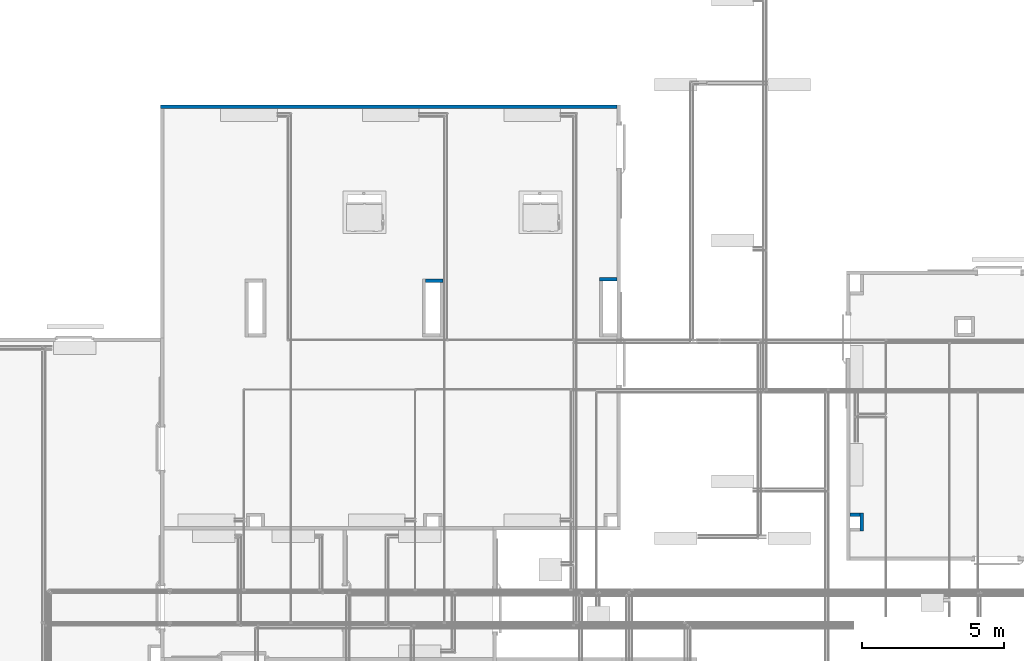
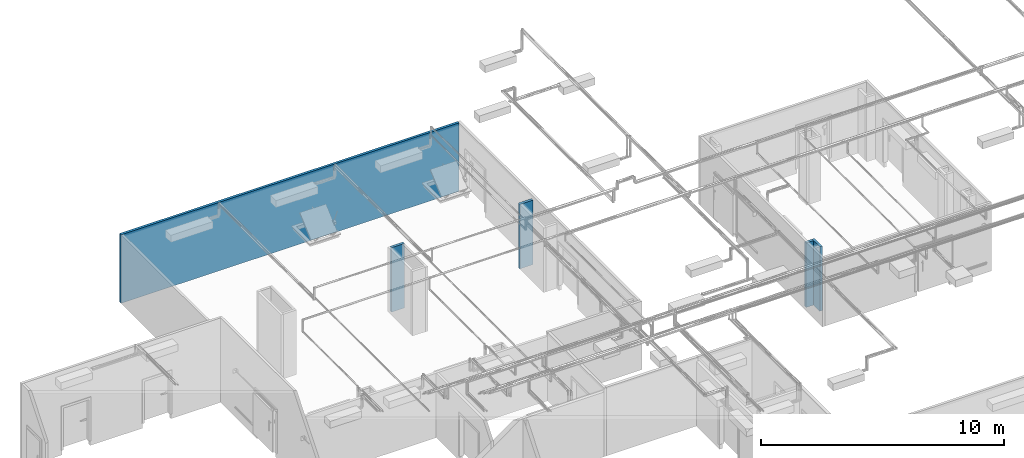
# One storey, part 29 of 652: 5 walls.
"""IFC2X3 building model written with IfcOpenShell, lengths in millimetres."""

from ifc_helpers import new_model, entity, si_unit, converted_unit, direction, frame, frame_2d, origin, place, context, subcontext, project, spatial, rectangle, extrude, material, layer, layer_set, layer_usage, type_object, element, save


model = new_model("IFC2X3")

# Units and contexts
model_context = context("Model", 3, precision=0.01, world=frame((0.0, 0.0, 308426.39999999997)), true_north=direction((6.123233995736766e-17, 1.0)))
plan_context = context("Plan", 3, precision=0.01, world=frame((0.0, 0.0, 308426.39999999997)), true_north=direction((6.123233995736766e-17, 1.0)))
body_context = subcontext(model_context, "Body", "Model", "MODEL_VIEW")
ifc_project = project(units=[si_unit("LENGTHUNIT", "METRE", prefix="MILLI"), si_unit("AREAUNIT", "SQUARE_METRE"), si_unit("VOLUMEUNIT", "CUBIC_METRE"), converted_unit("PLANEANGLEUNIT", "DEGREE", entity("IfcPlaneAngleMeasure", 0.017453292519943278), si_unit("PLANEANGLEUNIT", "RADIAN"), dimensions=[0, 0, 0, 0, 0, 0, 0])], contexts=[model_context, plan_context])

# Site, building, storey
site_placement = place(None, origin())
site = spatial("IfcSite", under=ifc_project, at=site_placement, Name="Default", CompositionType="ELEMENT")
building_placement = place(site_placement, origin())
building = spatial("IfcBuilding", under=site, at=building_placement, CompositionType="ELEMENT")
storey_placement = place(building_placement, frame((0.0, 0.0, 1730.6999999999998)))
storey = spatial("IfcBuildingStorey", under=building, at=storey_placement, Name="EG_Produktion_FFB", CompositionType="ELEMENT", Elevation=1730.6999999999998)

# Walls
ifc_material = material(Name="GPG_Paneelwand")
ifc_layer = layer(ifc_material, 120.0)
ifc_layer_set = layer_set([ifc_layer], Name="Basiswand:Kühlzellen Paneelwand 120")
ifc_layer_usage_1 = layer_usage(ifc_layer_set, "AXIS2", "NEGATIVE", 60.0)
wall_type = type_object("IfcWallType", Name="Basiswand:Kühlzellen Paneelwand 120", PredefinedType="STANDARD", material=ifc_layer_set)
wall_1_placement = place(storey_placement, frame((19150.0, 78140.0, -250.0)))
element("IfcWallStandardCase", 1, at=wall_1_placement, inside=storey, type_object=wall_type, material=ifc_layer_usage_1, Name="Basiswand:Kühlzellen Paneelwand 120", ObjectType="Basiswand:Kühlzellen Paneelwand 120", context=body_context, shape_type="SweptSolid", body=[
    extrude(rectangle(XDim=16104.999999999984, YDim=120.00000000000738, at=frame_2d((8052.499999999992, 0.0), x_axis=(-1.0, 0.0))), origin(), (0.0, 0.0, 1.0), 3449.9999999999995),
])
ifc_layer_usage_2 = layer_usage(ifc_layer_set, "AXIS2", "NEGATIVE", 60.0)
wall_2_placement = place(storey_placement, frame((29120.0, 72010.0, -250.0), z_axis=(0.0, 0.0, 1.0), x_axis=(-1.0, 0.0, 0.0)))
element("IfcWallStandardCase", 2, at=wall_2_placement, inside=storey, type_object=wall_type, material=ifc_layer_usage_2, Name="Basiswand:Kühlzellen Paneelwand 120", ObjectType="Basiswand:Kühlzellen Paneelwand 120", context=body_context, shape_type="SweptSolid", body=[
    extrude(rectangle(XDim=619.9999999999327, YDim=120.00000000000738, at=frame_2d((309.99999999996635, 0.0), x_axis=(-1.0, 0.0))), origin(), (0.0, 0.0, 1.0), 3249.9999999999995),
])
ifc_layer_usage_3 = layer_usage(ifc_layer_set, "AXIS2", "NEGATIVE", 60.0)
wall_3_placement = place(storey_placement, frame((34630.0, 72060.0, -250.0)))
element("IfcWallStandardCase", 3, at=wall_3_placement, inside=storey, type_object=wall_type, material=ifc_layer_usage_3, Name="Basiswand:Kühlzellen Paneelwand 120", ObjectType="Basiswand:Kühlzellen Paneelwand 120", context=body_context, shape_type="SweptSolid", body=[
    extrude(rectangle(XDim=624.9999999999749, YDim=120.00000000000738, at=frame_2d((312.49999999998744, 0.0), x_axis=(-1.0, 0.0))), origin(), (0.0, 0.0, 1.0), 3249.9999999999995),
])
ifc_layer_usage_4 = layer_usage(ifc_layer_set, "AXIS2", "POSITIVE", -60.0)
wall_4_placement = place(storey_placement, frame((43880.0, 63175.0, -250.0), z_axis=(0.0, 0.0, 1.0), x_axis=(0.0, 1.0, 0.0)))
element("IfcWallStandardCase", 4, at=wall_4_placement, inside=storey, type_object=wall_type, material=ifc_layer_usage_4, Name="Basiswand:Kühlzellen Paneelwand 120", ObjectType="Basiswand:Kühlzellen Paneelwand 120", context=body_context, shape_type="SweptSolid", body=[
    extrude(rectangle(XDim=640.0000000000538, YDim=120.00000000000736, at=frame_2d((320.0000000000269, 3.11928260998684e-12), x_axis=(-1.0, 0.0))), origin(), (0.0, 0.0, 1.0), 3249.9999999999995),
])
ifc_layer_usage_5 = layer_usage(ifc_layer_set, "AXIS2", "POSITIVE", -60.0)
wall_5_placement = place(storey_placement, frame((43820.0, 63755.0, -250.0), z_axis=(0.0, 0.0, 1.0), x_axis=(-1.0, 0.0, 0.0)))
element("IfcWallStandardCase", 5, at=wall_5_placement, inside=storey, type_object=wall_type, material=ifc_layer_usage_5, Name="Basiswand:Kühlzellen Paneelwand 120", ObjectType="Basiswand:Kühlzellen Paneelwand 120", context=body_context, shape_type="SweptSolid", body=[
    extrude(rectangle(XDim=349.99999999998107, YDim=120.00000000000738, at=frame_2d((174.99999999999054, -1.4424017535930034e-12), x_axis=(-1.0, 0.0))), origin(), (0.0, 0.0, 1.0), 3249.9999999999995),
])

save(model, "model.ifc")
